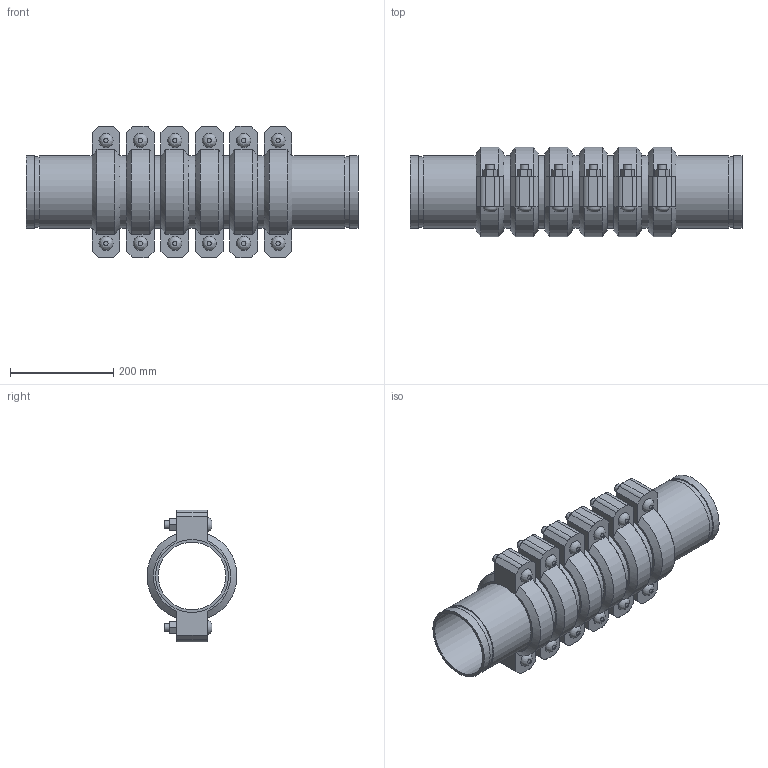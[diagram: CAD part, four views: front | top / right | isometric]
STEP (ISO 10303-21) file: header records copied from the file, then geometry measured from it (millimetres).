
FILE_DESCRIPTION(/* description */ ('VIC EXPANSION JOINT 6 COUPLINGS EXPANDED STYLE 155 (OGS)','CAx-IF Rec.Pracs.---Representation and Presentation of Product Manufacturing Information (PMI)---4.0---2014-10-13'),/* implementation_level */ '2;1');
FILE_NAME(/* name */ 'C:\Users\kkamble\AppData\Roaming\Autodesk\ApplicationPlugins\Victaulic.Temp\A6\Victaulic_IPS_Expansion Joint_Expanded_6 Couplings_Style 155 (OGS)_5 (125).stp',/* time_stamp */ '2021-06-27T00:04:51+02:00',/* author */ ('kkamble'),/* organization */ ('Victaulic'),/* preprocessor_version */ 'ST-DEVELOPER v17.2',/* originating_system */ 'Autodesk Inventor 2019',/* authorisation */ '');
FILE_SCHEMA (('AP242_MANAGED_MODEL_BASED_3D_ENGINEERING_MIM_LF { 1 0 10303 442 1 1 4 }'));
Length unit declared in the file: inch
Products named in the file (4): 155-05.0; Nipple-05.0; Nipple-05.0_1; 075-05.0
Assembly tree (13 placements, depth 2):
  155-05.0
    Nipple-05.0  x2
    Nipple-05.0_1  x5
    075-05.0  x6
Bounding box: 644.4 x 174.16 x 255.78 mm (x, y, z)
Volume: 5294492.1 mm3; surface area: 1197942.8 mm2
Topology: 13 solids, 25 shells, 426 faces, 1008 edges, 708 vertices
Faces by surface type: plane 258, cylinder 132, cone 24, bspline 12
Full cylindrical faces by diameter (mm): 15.875 x24, 17.424 x12, 130.988 x7, 134.95 x6, 137.033 x14, 141.3 x33
Entity records: 2817 total; most frequent: CARTESIAN_POINT 497, DIRECTION 469, ORIENTED_EDGE 386, EDGE_CURVE 193, AXIS2_PLACEMENT_3D 188, VERTEX_POINT 138, EDGE_LOOP 107, LINE 93
